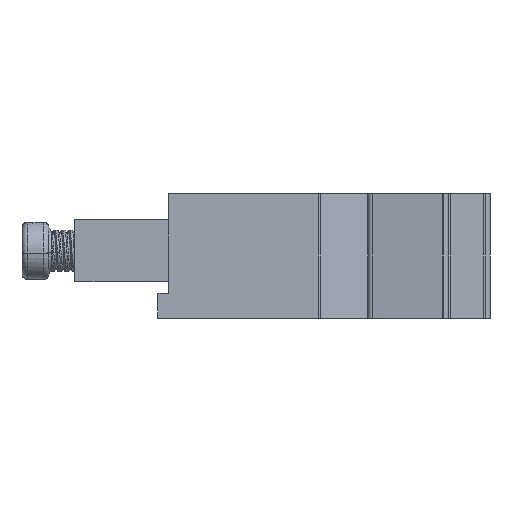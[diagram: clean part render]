
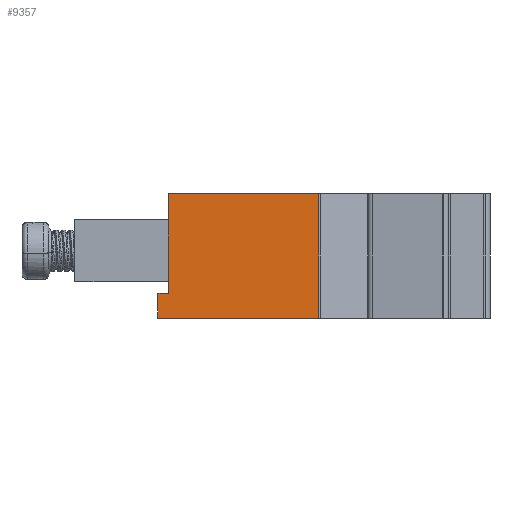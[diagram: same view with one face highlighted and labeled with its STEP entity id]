
A CAD part, left-side view. The second image highlights one B-rep face of the part: STEP entity #9357.
In plain terms, the highlighted planar face has unit normal (-1, 0, 0).
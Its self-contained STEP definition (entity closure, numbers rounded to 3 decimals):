
#78 = VECTOR ( 'NONE', #4170, 1000. ) ;
#280 = VERTEX_POINT ( 'NONE', #8441 ) ;
#436 = ORIENTED_EDGE ( 'NONE', *, *, #2767, .T. ) ;
#1072 = VERTEX_POINT ( 'NONE', #11120 ) ;
#1238 = EDGE_CURVE ( 'NONE', #3342, #1072, #7625, .T. ) ;
#1413 = LINE ( 'NONE', #3402, #4273 ) ;
#2344 = FACE_OUTER_BOUND ( 'NONE', #6988, .T. ) ;
#2400 = AXIS2_PLACEMENT_3D ( 'NONE', #6277, #5347, #12031 ) ;
#2767 = EDGE_CURVE ( 'NONE', #1072, #8684, #11018, .T. ) ;
#3129 = CARTESIAN_POINT ( 'NONE',  ( 0., -14.487, 12. ) ) ;
#3214 = CARTESIAN_POINT ( 'NONE',  ( 0., -14.6, 0. ) ) ;
#3231 = CARTESIAN_POINT ( 'NONE',  ( 0., 0., 12. ) ) ;
#3342 = VERTEX_POINT ( 'NONE', #12061 ) ;
#3402 = CARTESIAN_POINT ( 'NONE',  ( 0., -14.6, 12. ) ) ;
#3403 = VERTEX_POINT ( 'NONE', #3586 ) ;
#3586 = CARTESIAN_POINT ( 'NONE',  ( 0., 0., 12. ) ) ;
#4089 = LINE ( 'NONE', #3231, #8596 ) ;
#4170 = DIRECTION ( 'NONE',  ( 0., -1., 0. ) ) ;
#4273 = VECTOR ( 'NONE', #11964, 1000. ) ;
#4343 = PLANE ( 'NONE',  #2400 ) ;
#4517 = ORIENTED_EDGE ( 'NONE', *, *, #7554, .T. ) ;
#4627 = ORIENTED_EDGE ( 'NONE', *, *, #6064, .T. ) ;
#4702 = VECTOR ( 'NONE', #6967, 1000. ) ;
#5347 = DIRECTION ( 'NONE',  ( 1., 0., 0. ) ) ;
#5416 = VERTEX_POINT ( 'NONE', #8666 ) ;
#5527 = ORIENTED_EDGE ( 'NONE', *, *, #8271, .T. ) ;
#5642 = VECTOR ( 'NONE', #7646, 1000. ) ;
#5858 = DIRECTION ( 'NONE',  ( 0., 1., 0. ) ) ;
#5982 = CARTESIAN_POINT ( 'NONE',  ( 0., 1., 0. ) ) ;
#6064 = EDGE_CURVE ( 'NONE', #8684, #280, #10554, .T. ) ;
#6277 = CARTESIAN_POINT ( 'NONE',  ( 0., -14.6, 12. ) ) ;
#6753 = CARTESIAN_POINT ( 'NONE',  ( 0., 0., 2.4 ) ) ;
#6860 = EDGE_CURVE ( 'NONE', #3403, #5416, #1413, .T. ) ;
#6967 = DIRECTION ( 'NONE',  ( 0., 0., 1. ) ) ;
#6988 = EDGE_LOOP ( 'NONE', ( #4627, #4517, #11365, #5527, #10588, #436 ) ) ;
#7255 = LINE ( 'NONE', #3129, #4702 ) ;
#7554 = EDGE_CURVE ( 'NONE', #280, #5416, #7255, .T. ) ;
#7625 = LINE ( 'NONE', #6753, #7917 ) ;
#7646 = DIRECTION ( 'NONE',  ( 0., 0., -1. ) ) ;
#7917 = VECTOR ( 'NONE', #5858, 1000. ) ;
#8271 = EDGE_CURVE ( 'NONE', #3403, #3342, #4089, .T. ) ;
#8441 = CARTESIAN_POINT ( 'NONE',  ( 0., -14.487, 0. ) ) ;
#8596 = VECTOR ( 'NONE', #10848, 1000. ) ;
#8616 = CARTESIAN_POINT ( 'NONE',  ( 0., 1., 2.4 ) ) ;
#8666 = CARTESIAN_POINT ( 'NONE',  ( 0., -14.487, 12. ) ) ;
#8684 = VERTEX_POINT ( 'NONE', #5982 ) ;
#9357 = ADVANCED_FACE ( 'NONE', ( #2344 ), #4343, .F. ) ;
#10554 = LINE ( 'NONE', #3214, #78 ) ;
#10588 = ORIENTED_EDGE ( 'NONE', *, *, #1238, .T. ) ;
#10848 = DIRECTION ( 'NONE',  ( 0., 0., -1. ) ) ;
#11018 = LINE ( 'NONE', #8616, #5642 ) ;
#11120 = CARTESIAN_POINT ( 'NONE',  ( 0., 1., 2.4 ) ) ;
#11365 = ORIENTED_EDGE ( 'NONE', *, *, #6860, .F. ) ;
#11964 = DIRECTION ( 'NONE',  ( 0., -1., 0. ) ) ;
#12031 = DIRECTION ( 'NONE',  ( 0., 0., -1. ) ) ;
#12061 = CARTESIAN_POINT ( 'NONE',  ( 0., 0., 2.4 ) ) ;
